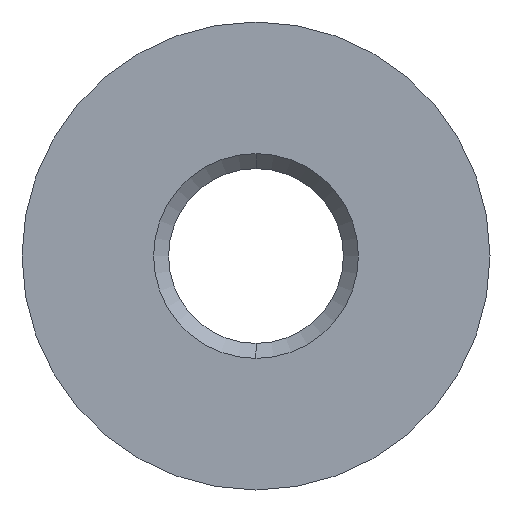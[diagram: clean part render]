
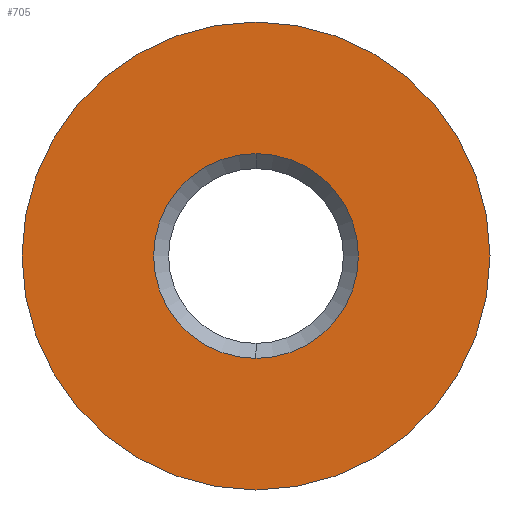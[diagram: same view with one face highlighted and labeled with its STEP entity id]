
A CAD part, left-side view. The second image highlights one B-rep face of the part: STEP entity #705.
In plain terms, the highlighted planar face has unit normal (-1, 0, 0).
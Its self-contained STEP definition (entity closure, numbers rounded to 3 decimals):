
#6 = DIRECTION ( 'NONE',  ( 0., 0., -1. ) ) ;
#60 = DIRECTION ( 'NONE',  ( 0., 0., -1. ) ) ;
#61 = DIRECTION ( 'NONE',  ( 1., 0., 0. ) ) ;
#62 = CARTESIAN_POINT ( 'NONE',  ( 0., 0., 0. ) ) ;
#63 = AXIS2_PLACEMENT_3D ( 'NONE', #62, #61, #60 ) ;
#68 = CIRCLE ( 'NONE', #63, 2.05 ) ;
#77 = DIRECTION ( 'NONE',  ( 1., 0., 0. ) ) ;
#363 = CARTESIAN_POINT ( 'NONE',  ( 0., 0., 0. ) ) ;
#364 = AXIS2_PLACEMENT_3D ( 'NONE', #363, #77, #6 ) ;
#365 = CIRCLE ( 'NONE', #364, 4.685 ) ;
#416 = CARTESIAN_POINT ( 'NONE',  ( 0., 0., 4.685 ) ) ;
#468 = CARTESIAN_POINT ( 'NONE',  ( 0., 0., -4.685 ) ) ;
#572 = EDGE_CURVE ( 'NONE', #573, #580, #1043, .T. ) ;
#573 = VERTEX_POINT ( 'NONE', #1038 ) ;
#580 = VERTEX_POINT ( 'NONE', #1012 ) ;
#585 = EDGE_CURVE ( 'NONE', #815, #765, #1226, .T. ) ;
#667 = ORIENTED_EDGE ( 'NONE', *, *, #856, .F. ) ;
#668 = ORIENTED_EDGE ( 'NONE', *, *, #585, .F. ) ;
#705 = ADVANCED_FACE ( 'NONE', ( #1354, #1353 ), #1352, .F. ) ;
#706 = EDGE_LOOP ( 'NONE', ( #707, #708 ) ) ;
#707 = ORIENTED_EDGE ( 'NONE', *, *, #572, .T. ) ;
#708 = ORIENTED_EDGE ( 'NONE', *, *, #989, .T. ) ;
#765 = VERTEX_POINT ( 'NONE', #416 ) ;
#815 = VERTEX_POINT ( 'NONE', #468 ) ;
#856 = EDGE_CURVE ( 'NONE', #765, #815, #365, .T. ) ;
#988 = EDGE_LOOP ( 'NONE', ( #667, #668 ) ) ;
#989 = EDGE_CURVE ( 'NONE', #580, #573, #68, .T. ) ;
#1012 = CARTESIAN_POINT ( 'NONE',  ( 0., 0., -2.05 ) ) ;
#1038 = CARTESIAN_POINT ( 'NONE',  ( 0., 0., 2.05 ) ) ;
#1039 = DIRECTION ( 'NONE',  ( 0., 0., -1. ) ) ;
#1040 = DIRECTION ( 'NONE',  ( 1., 0., 0. ) ) ;
#1041 = CARTESIAN_POINT ( 'NONE',  ( 0., 0., 0. ) ) ;
#1042 = AXIS2_PLACEMENT_3D ( 'NONE', #1041, #1040, #1039 ) ;
#1043 = CIRCLE ( 'NONE', #1042, 2.05 ) ;
#1225 = AXIS2_PLACEMENT_3D ( 'NONE', #1231, #1230, #1229 ) ;
#1226 = CIRCLE ( 'NONE', #1225, 4.685 ) ;
#1229 = DIRECTION ( 'NONE',  ( 0., 0., -1. ) ) ;
#1230 = DIRECTION ( 'NONE',  ( 1., 0., 0. ) ) ;
#1231 = CARTESIAN_POINT ( 'NONE',  ( 0., 0., 0. ) ) ;
#1347 = DIRECTION ( 'NONE',  ( 0., 0., -1. ) ) ;
#1348 = DIRECTION ( 'NONE',  ( 1., 0., 0. ) ) ;
#1349 = AXIS2_PLACEMENT_3D ( 'NONE', #1351, #1348, #1347 ) ;
#1351 = CARTESIAN_POINT ( 'NONE',  ( 0., 0., 0. ) ) ;
#1352 = PLANE ( 'NONE',  #1349 ) ;
#1353 = FACE_OUTER_BOUND ( 'NONE', #988, .T. ) ;
#1354 = FACE_BOUND ( 'NONE', #706, .T. ) ;
